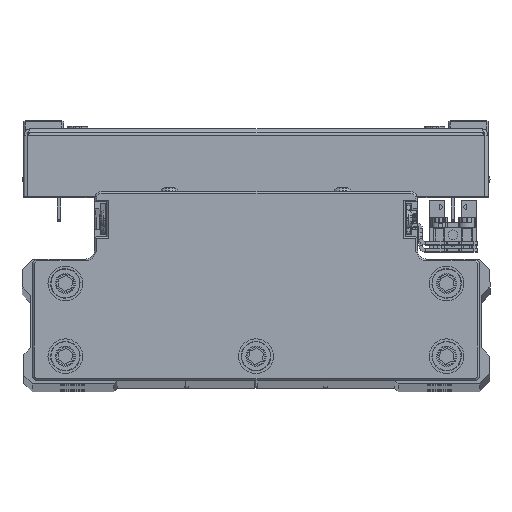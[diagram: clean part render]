
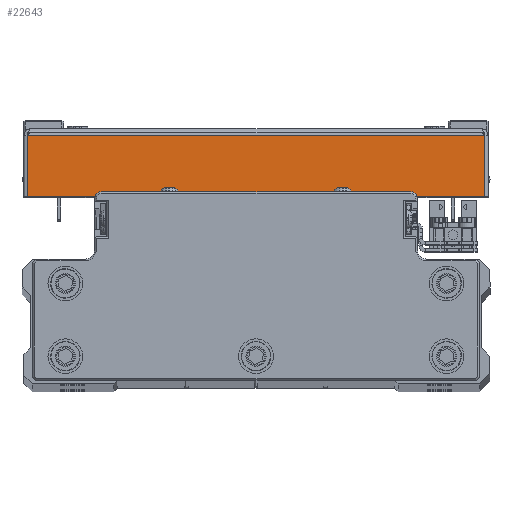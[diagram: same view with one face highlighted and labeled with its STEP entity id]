
A CAD part, top view. The second image highlights one B-rep face of the part: STEP entity #22643.
In plain terms, the highlighted planar face has unit normal (0, 0, 1) as drawn and (1, 0, 0) by its records, which use the part's own axes.
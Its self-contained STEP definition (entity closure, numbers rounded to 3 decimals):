
#409 = LINE ( 'NONE', #14335, #4457 ) ;
#1066 = ORIENTED_EDGE ( 'NONE', *, *, #3485, .T. ) ;
#1519 = VECTOR ( 'NONE', #36228, 1000. ) ;
#2298 = CARTESIAN_POINT ( 'NONE',  ( 100., 18.5, 65.929 ) ) ;
#2460 = ORIENTED_EDGE ( 'NONE', *, *, #17035, .F. ) ;
#3485 = EDGE_CURVE ( 'NONE', #20067, #10294, #23110, .T. ) ;
#4457 = VECTOR ( 'NONE', #28235, 1000. ) ;
#5754 = DIRECTION ( 'NONE',  ( 0., 1., 0. ) ) ;
#8417 = LINE ( 'NONE', #22325, #1519 ) ;
#10294 = VERTEX_POINT ( 'NONE', #28610 ) ;
#10324 = CARTESIAN_POINT ( 'NONE',  ( 100., 0., 0. ) ) ;
#12086 = VERTEX_POINT ( 'NONE', #2298 ) ;
#14335 = CARTESIAN_POINT ( 'NONE',  ( 100., 0., 65.929 ) ) ;
#16110 = AXIS2_PLACEMENT_3D ( 'NONE', #10324, #24235, #38177 ) ;
#16234 = LINE ( 'NONE', #30160, #42886 ) ;
#17035 = EDGE_CURVE ( 'NONE', #20067, #41442, #8417, .T. ) ;
#17477 = ORIENTED_EDGE ( 'NONE', *, *, #39657, .F. ) ;
#18836 = ORIENTED_EDGE ( 'NONE', *, *, #34704, .T. ) ;
#20067 = VERTEX_POINT ( 'NONE', #26922 ) ;
#22325 = CARTESIAN_POINT ( 'NONE',  ( 100., 1., 67. ) ) ;
#22643 = ADVANCED_FACE ( 'NONE', ( #27664 ), #41589, .F. ) ;
#23110 = LINE ( 'NONE', #37025, #38197 ) ;
#24235 = DIRECTION ( 'NONE',  ( -1., 0., 0. ) ) ;
#26922 = CARTESIAN_POINT ( 'NONE',  ( 100., 1., -65.929 ) ) ;
#27664 = FACE_OUTER_BOUND ( 'NONE', #41997, .T. ) ;
#28235 = DIRECTION ( 'NONE',  ( 0., 1., 0. ) ) ;
#28610 = CARTESIAN_POINT ( 'NONE',  ( 100., 18.5, -65.929 ) ) ;
#30160 = CARTESIAN_POINT ( 'NONE',  ( 100., 18.5, 0. ) ) ;
#32738 = CARTESIAN_POINT ( 'NONE',  ( 100., 1., 65.929 ) ) ;
#34704 = EDGE_CURVE ( 'NONE', #10294, #12086, #16234, .T. ) ;
#36228 = DIRECTION ( 'NONE',  ( 0., 0., 1. ) ) ;
#37025 = CARTESIAN_POINT ( 'NONE',  ( 100., 0., -65.929 ) ) ;
#38177 = DIRECTION ( 'NONE',  ( 0., -1., 0. ) ) ;
#38197 = VECTOR ( 'NONE', #5754, 1000. ) ;
#39657 = EDGE_CURVE ( 'NONE', #41442, #12086, #409, .T. ) ;
#41442 = VERTEX_POINT ( 'NONE', #32738 ) ;
#41589 = PLANE ( 'NONE',  #16110 ) ;
#41997 = EDGE_LOOP ( 'NONE', ( #2460, #1066, #18836, #17477 ) ) ;
#42886 = VECTOR ( 'NONE', #44081, 1000. ) ;
#44081 = DIRECTION ( 'NONE',  ( 0., 0., 1. ) ) ;
